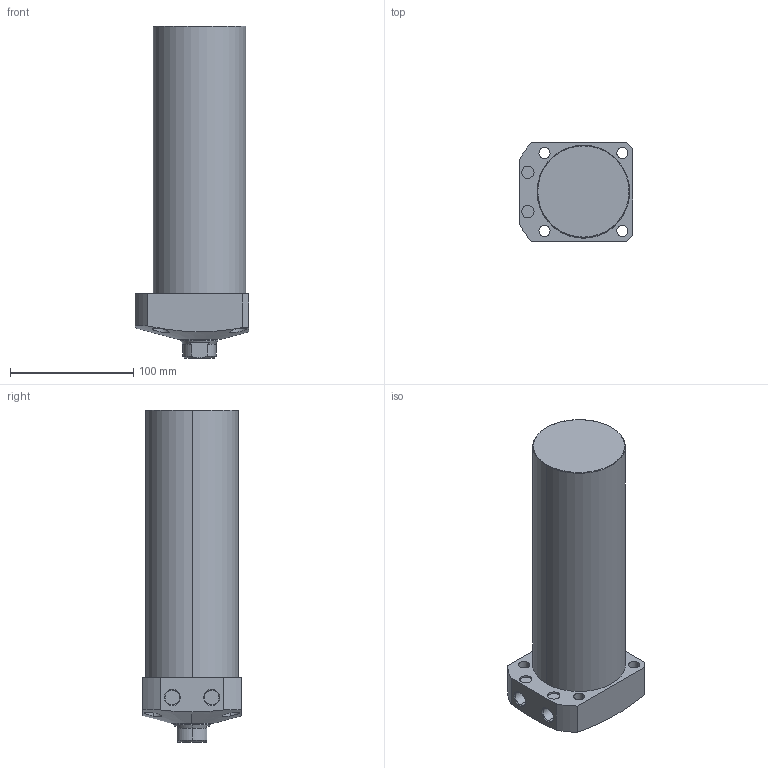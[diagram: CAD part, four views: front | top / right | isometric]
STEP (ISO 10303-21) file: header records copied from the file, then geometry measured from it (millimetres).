
FILE_DESCRIPTION (( 'STEP AP203' ), '1' );
FILE_NAME ('CLL-075CA-180.STEP', '2019-12-23T09:02:12', ( '' ), ( '' ), 'SwSTEP 2.0', 'SolidWorks 2015', '' );
FILE_SCHEMA (( 'CONFIG_CONTROL_DESIGN' ));
Length unit declared in the file: millimetre
Products named in the file (1): CLL-075CA-180
Bounding box: 92 x 80 x 269 mm (x, y, z)
Volume: 1177734.6 mm3; surface area: 83463.8 mm2
Topology: 1 solids, 1 shells, 74 faces, 171 edges, 108 vertices
Faces by surface type: cylinder 35, plane 22, cone 15, torus 2
Entity records: 2610 total; most frequent: CARTESIAN_POINT 815, DIRECTION 376, ORIENTED_EDGE 338, EDGE_CURVE 169, AXIS2_PLACEMENT_3D 156, VERTEX_POINT 108, EDGE_LOOP 93, CIRCLE 81
